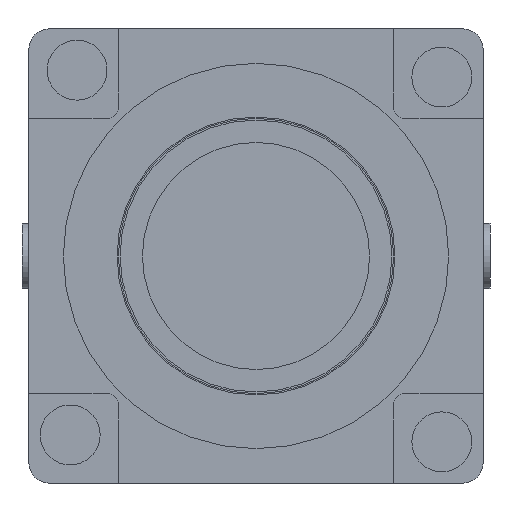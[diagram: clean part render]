
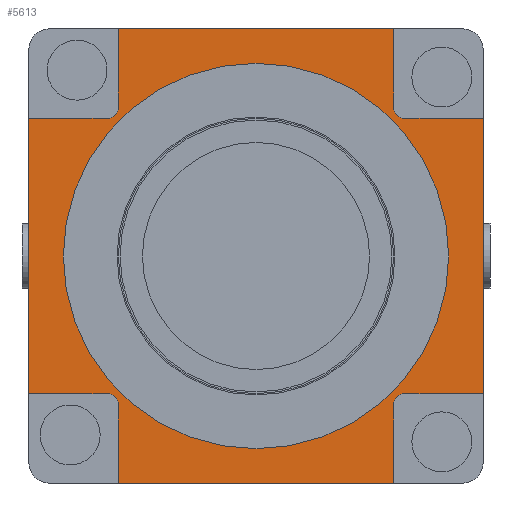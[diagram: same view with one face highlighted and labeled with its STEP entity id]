
A CAD part, left-side view. The second image highlights one B-rep face of the part: STEP entity #5613.
In plain terms, the highlighted planar face has unit normal (-1, 0, 0).
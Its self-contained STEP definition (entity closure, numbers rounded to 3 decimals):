
#2115=CARTESIAN_POINT('',(0.0,33.0,-20.0));
#2116=VERTEX_POINT('',#2115);
#2123=CARTESIAN_POINT('',(0.0,33.0,20.0));
#2124=VERTEX_POINT('',#2123);
#2125=CARTESIAN_POINT('',(0.0,33.0,-20.0));
#2126=DIRECTION('',(0.0,0.0,1.0));
#2127=VECTOR('',#2126,40.0);
#2128=LINE('',#2125,#2127);
#2129=EDGE_CURVE('',#2116,#2124,#2128,.T.);
#2418=CARTESIAN_POINT('',(0.0,-21.0,0.));
#2419=VERTEX_POINT('',#2418);
#2420=CARTESIAN_POINT('',(0.0,0.0,0.0));
#2421=DIRECTION('',(-1.0,0.0,0.0));
#2422=DIRECTION('',(0.0,1.0,0.0));
#2423=AXIS2_PLACEMENT_3D('',#2420,#2421,#2422);
#2424=CIRCLE('',#2423,21.0);
#2425=EDGE_CURVE('',#2419,#2419,#2424,.T.);
#4029=CARTESIAN_POINT('',(0.0,20.0,33.0));
#4030=VERTEX_POINT('',#4029);
#4037=CARTESIAN_POINT('',(0.0,-20.0,33.0));
#4038=VERTEX_POINT('',#4037);
#4039=CARTESIAN_POINT('',(0.0,20.0,33.0));
#4040=DIRECTION('',(0.0,-1.0,0.0));
#4041=VECTOR('',#4040,40.0);
#4042=LINE('',#4039,#4041);
#4043=EDGE_CURVE('',#4030,#4038,#4042,.T.);
#5090=CARTESIAN_POINT('',(0.0,-20.0,-33.0));
#5091=VERTEX_POINT('',#5090);
#5098=CARTESIAN_POINT('',(0.0,20.0,-33.0));
#5099=VERTEX_POINT('',#5098);
#5100=CARTESIAN_POINT('',(0.0,-20.0,-33.0));
#5101=DIRECTION('',(0.0,1.0,0.0));
#5102=VECTOR('',#5101,40.0);
#5103=LINE('',#5100,#5102);
#5104=EDGE_CURVE('',#5091,#5099,#5103,.T.);
#5171=CARTESIAN_POINT('',(0.0,-33.0,20.0));
#5172=VERTEX_POINT('',#5171);
#5179=CARTESIAN_POINT('',(0.0,-33.0,-20.0));
#5180=VERTEX_POINT('',#5179);
#5181=CARTESIAN_POINT('',(0.0,-33.0,20.0));
#5182=DIRECTION('',(0.0,0.0,-1.0));
#5183=VECTOR('',#5182,40.0);
#5184=LINE('',#5181,#5183);
#5185=EDGE_CURVE('',#5172,#5180,#5184,.T.);
#5438=CARTESIAN_POINT('',(0.0,-21.5,20.0));
#5439=VERTEX_POINT('',#5438);
#5446=CARTESIAN_POINT('',(0.0,-33.0,20.0));
#5447=DIRECTION('',(0.0,1.0,0.0));
#5448=VECTOR('',#5447,11.5);
#5449=LINE('',#5446,#5448);
#5450=EDGE_CURVE('',#5172,#5439,#5449,.T.);
#5461=CARTESIAN_POINT('',(0.0,-20.0,21.5));
#5462=VERTEX_POINT('',#5461);
#5463=CARTESIAN_POINT('',(0.0,-20.0,21.5));
#5464=DIRECTION('',(0.0,0.0,1.0));
#5465=VECTOR('',#5464,11.5);
#5466=LINE('',#5463,#5465);
#5467=EDGE_CURVE('',#5462,#4038,#5466,.T.);
#5499=CARTESIAN_POINT('',(0.0,-21.5,21.5));
#5500=DIRECTION('',(1.0,0.0,0.0));
#5501=DIRECTION('',(0.0,0.0,-1.0));
#5502=AXIS2_PLACEMENT_3D('',#5499,#5500,#5501);
#5503=CIRCLE('',#5502,1.5);
#5504=EDGE_CURVE('',#5439,#5462,#5503,.T.);
#5527=CARTESIAN_POINT('',(0.0,0.0,0.0));
#5528=DIRECTION('',(1.0,0.0,0.0));
#5529=DIRECTION('',(0.0,0.0,-1.0));
#5530=AXIS2_PLACEMENT_3D('',#5527,#5528,#5529);
#5531=PLANE('',#5530);
#5532=ORIENTED_EDGE('',*,*,#5450,.T.);
#5533=ORIENTED_EDGE('',*,*,#5504,.T.);
#5534=ORIENTED_EDGE('',*,*,#5467,.T.);
#5535=ORIENTED_EDGE('',*,*,#4043,.F.);
#5536=CARTESIAN_POINT('',(0.0,20.0,21.5));
#5537=VERTEX_POINT('',#5536);
#5538=CARTESIAN_POINT('',(0.0,20.0,33.0));
#5539=DIRECTION('',(0.0,0.0,-1.0));
#5540=VECTOR('',#5539,11.5);
#5541=LINE('',#5538,#5540);
#5542=EDGE_CURVE('',#4030,#5537,#5541,.T.);
#5543=ORIENTED_EDGE('',*,*,#5542,.T.);
#5544=CARTESIAN_POINT('',(0.0,21.5,20.0));
#5545=VERTEX_POINT('',#5544);
#5546=CARTESIAN_POINT('',(0.0,21.5,21.5));
#5547=DIRECTION('',(1.0,0.0,0.0));
#5548=DIRECTION('',(0.0,-1.0,0.0));
#5549=AXIS2_PLACEMENT_3D('',#5546,#5547,#5548);
#5550=CIRCLE('',#5549,1.5);
#5551=EDGE_CURVE('',#5537,#5545,#5550,.T.);
#5552=ORIENTED_EDGE('',*,*,#5551,.T.);
#5553=CARTESIAN_POINT('',(0.0,21.5,20.0));
#5554=DIRECTION('',(0.0,1.0,0.0));
#5555=VECTOR('',#5554,11.5);
#5556=LINE('',#5553,#5555);
#5557=EDGE_CURVE('',#5545,#2124,#5556,.T.);
#5558=ORIENTED_EDGE('',*,*,#5557,.T.);
#5559=ORIENTED_EDGE('',*,*,#2129,.F.);
#5560=CARTESIAN_POINT('',(0.0,21.5,-20.0));
#5561=VERTEX_POINT('',#5560);
#5562=CARTESIAN_POINT('',(0.0,33.0,-20.0));
#5563=DIRECTION('',(0.0,-1.0,0.0));
#5564=VECTOR('',#5563,11.5);
#5565=LINE('',#5562,#5564);
#5566=EDGE_CURVE('',#2116,#5561,#5565,.T.);
#5567=ORIENTED_EDGE('',*,*,#5566,.T.);
#5568=CARTESIAN_POINT('',(0.0,20.0,-21.5));
#5569=VERTEX_POINT('',#5568);
#5570=CARTESIAN_POINT('',(0.0,21.5,-21.5));
#5571=DIRECTION('',(1.0,0.0,0.0));
#5572=DIRECTION('',(0.0,0.0,1.0));
#5573=AXIS2_PLACEMENT_3D('',#5570,#5571,#5572);
#5574=CIRCLE('',#5573,1.5);
#5575=EDGE_CURVE('',#5561,#5569,#5574,.T.);
#5576=ORIENTED_EDGE('',*,*,#5575,.T.);
#5577=CARTESIAN_POINT('',(0.0,20.0,-21.5));
#5578=DIRECTION('',(0.0,0.0,-1.0));
#5579=VECTOR('',#5578,11.5);
#5580=LINE('',#5577,#5579);
#5581=EDGE_CURVE('',#5569,#5099,#5580,.T.);
#5582=ORIENTED_EDGE('',*,*,#5581,.T.);
#5583=ORIENTED_EDGE('',*,*,#5104,.F.);
#5584=CARTESIAN_POINT('',(0.0,-20.0,-21.5));
#5585=VERTEX_POINT('',#5584);
#5586=CARTESIAN_POINT('',(0.0,-20.0,-33.0));
#5587=DIRECTION('',(0.0,0.0,1.0));
#5588=VECTOR('',#5587,11.5);
#5589=LINE('',#5586,#5588);
#5590=EDGE_CURVE('',#5091,#5585,#5589,.T.);
#5591=ORIENTED_EDGE('',*,*,#5590,.T.);
#5592=CARTESIAN_POINT('',(0.0,-21.5,-20.0));
#5593=VERTEX_POINT('',#5592);
#5594=CARTESIAN_POINT('',(0.0,-21.5,-21.5));
#5595=DIRECTION('',(1.0,0.0,0.0));
#5596=DIRECTION('',(0.0,1.0,0.0));
#5597=AXIS2_PLACEMENT_3D('',#5594,#5595,#5596);
#5598=CIRCLE('',#5597,1.5);
#5599=EDGE_CURVE('',#5585,#5593,#5598,.T.);
#5600=ORIENTED_EDGE('',*,*,#5599,.T.);
#5601=CARTESIAN_POINT('',(0.0,-21.5,-20.0));
#5602=DIRECTION('',(0.0,-1.0,0.0));
#5603=VECTOR('',#5602,11.5);
#5604=LINE('',#5601,#5603);
#5605=EDGE_CURVE('',#5593,#5180,#5604,.T.);
#5606=ORIENTED_EDGE('',*,*,#5605,.T.);
#5607=ORIENTED_EDGE('',*,*,#5185,.F.);
#5608=EDGE_LOOP('',(#5532,#5533,#5534,#5535,#5543,#5552,#5558,#5559,#5567,#5576,#5582,#5583,#5591,#5600,#5606,#5607));
#5609=FACE_OUTER_BOUND('',#5608,.T.);
#5610=ORIENTED_EDGE('',*,*,#2425,.F.);
#5611=EDGE_LOOP('',(#5610));
#5612=FACE_BOUND('',#5611,.T.);
#5613=ADVANCED_FACE('',(#5609,#5612),#5531,.F.);
